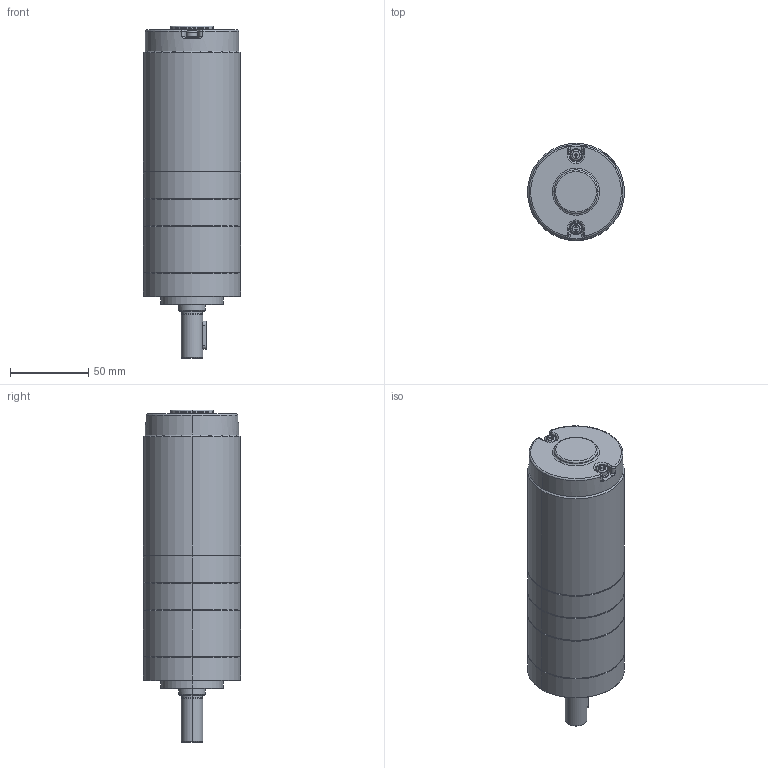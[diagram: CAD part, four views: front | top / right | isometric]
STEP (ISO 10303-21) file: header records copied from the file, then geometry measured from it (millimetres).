
FILE_DESCRIPTION (( 'STEP AP203' ), '1' );
FILE_NAME ('62ZPN衄芃媼撰熬厒40W.STEP', '2021-07-17T08:17:26', ( '' ), ( '' ), 'SwSTEP 2.0', 'SolidWorks 2021', '' );
FILE_SCHEMA (( 'CONFIG_CONTROL_DESIGN' ));
Length unit declared in the file: millimetre
Products named in the file (1): 62ZPN衄芃媼撰熬厒40W
Bounding box: 62 x 62 x 212.2 mm (x, y, z)
Volume: 523150.8 mm3; surface area: 44428.6 mm2
Topology: 1 solids, 1 shells, 277 faces, 645 edges, 385 vertices
Faces by surface type: plane 98, cylinder 97, cone 48, torus 27, bspline 7
Entity records: 8342 total; most frequent: CARTESIAN_POINT 1897, DIRECTION 1416, ORIENTED_EDGE 1266, EDGE_CURVE 633, AXIS2_PLACEMENT_3D 540, VERTEX_POINT 385, VECTOR 336, LINE 336
